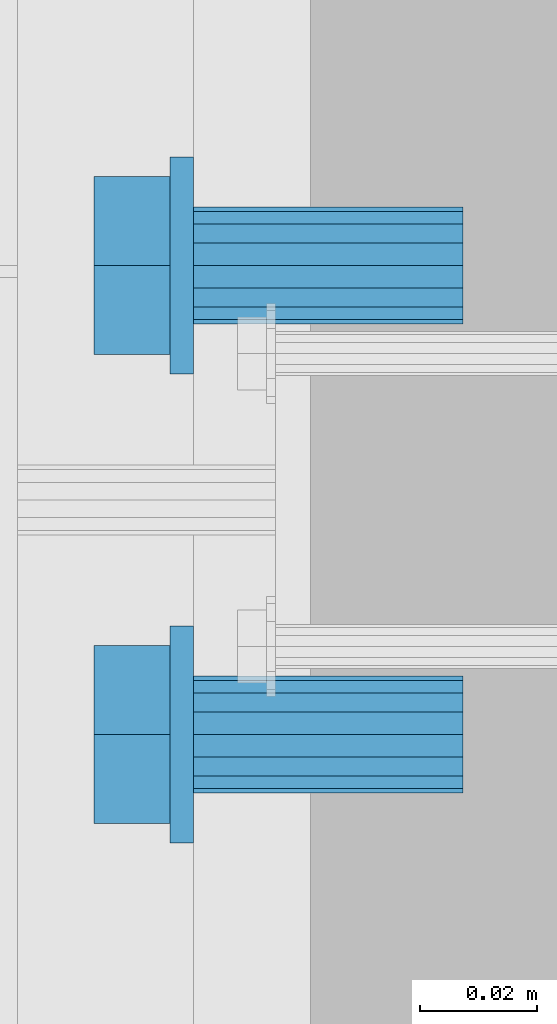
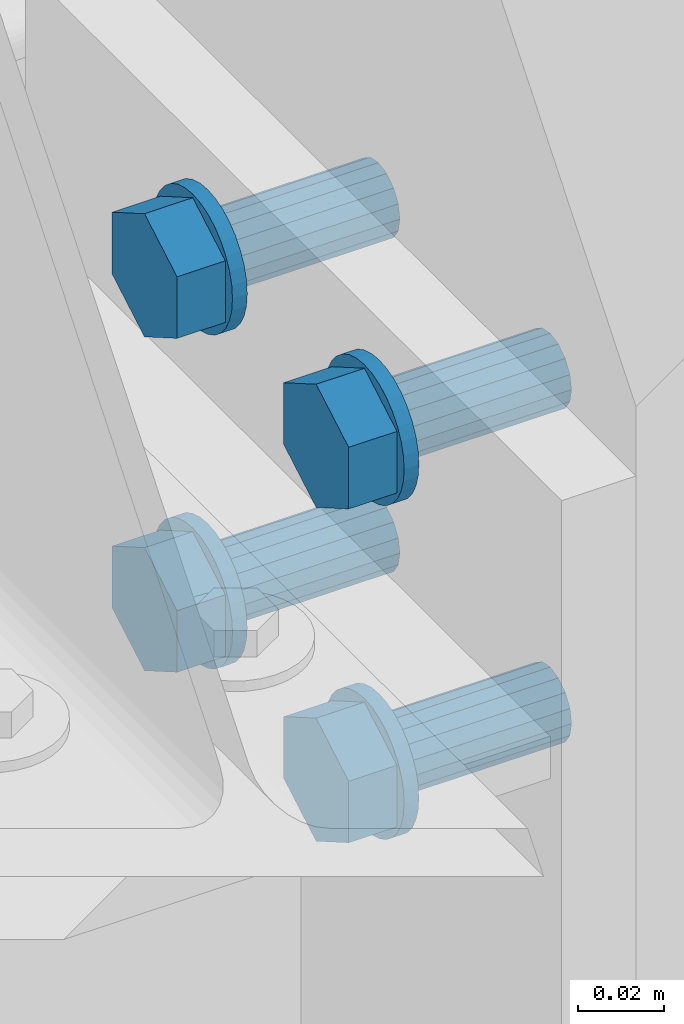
# One storey, part 213 of 410: 4 mechanical fasteners.
"""IFC2X3 building model written with IfcOpenShell, lengths in millimetres."""

from ifc_helpers import new_model, entity, si_unit, converted_unit, origin_with_axes, place, context, project, spatial, faceted_brep, element, save


model = new_model("IFC2X3")

# Units and contexts
model_context = context("Model", 3, precision=1e-09, world=origin_with_axes())
ifc_project = project(units=[si_unit("LENGTHUNIT", "METRE", prefix="MILLI"), si_unit("AREAUNIT", "SQUARE_METRE"), si_unit("VOLUMEUNIT", "CUBIC_METRE"), converted_unit("PLANEANGLEUNIT", "DEGREE", entity("IfcPlaneAngleMeasure", 0.01745329), si_unit("PLANEANGLEUNIT", "RADIAN"), dimensions=[0, 0, 0, 0, 0, 0, 0])], contexts=[model_context])

# Site, building, storey
site_placement = place(None, origin_with_axes())
site = spatial("IfcSite", under=ifc_project, at=site_placement, Name="mKR Teilneubau & Sanierung BA1 - Ostfildern", CompositionType="ELEMENT")
building_placement = place(site_placement, origin_with_axes())
building = spatial("IfcBuilding", under=site, at=building_placement, Name="Struktur 1", CompositionType="ELEMENT")
storey_placement = place(building_placement, origin_with_axes())
storey = spatial("IfcBuildingStorey", under=building, at=storey_placement, Name="Default Storey", CompositionType="ELEMENT", Elevation=0.0)

# Mechanical fasteners
mechanical_fastener_1_placement = place(None, origin_with_axes())
element("IfcMechanicalFastener", 1, at=mechanical_fastener_1_placement, inside=storey, ObjectType="-", NominalDiameter=20.0, NominalLength=50.0, context=model_context, shape_type="Brep", body=[
    faceted_brep([(-1729.0, 17038.5, 3760.0), (-1725.0, 17038.5, 3760.0), (-1725.0, 17038.144527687, 3756.390829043), (-1729.0, 17038.144527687, 3756.390829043), (-1725.0, 17037.091771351, 3752.920356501), (-1729.0, 17037.091771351, 3752.920356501), (-1725.0, 17035.382187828, 3749.721950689), (-1729.0, 17035.382187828, 3749.721950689), (-1725.0, 17033.081475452, 3746.918524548), (-1729.0, 17033.081475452, 3746.918524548), (-1725.0, 17030.278049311, 3744.617812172), (-1729.0, 17030.278049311, 3744.617812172), (-1725.0, 17027.079643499, 3742.908228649), (-1729.0, 17027.079643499, 3742.908228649), (-1725.0, 17023.609170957, 3741.855472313), (-1729.0, 17023.609170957, 3741.855472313), (-1725.0, 17020.0, 3741.5), (-1729.0, 17020.0, 3741.5), (-1725.0, 17016.390829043, 3741.855472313), (-1729.0, 17016.390829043, 3741.855472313), (-1725.0, 17012.920356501, 3742.908228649), (-1729.0, 17012.920356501, 3742.908228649), (-1725.0, 17009.721950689, 3744.617812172), (-1729.0, 17009.721950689, 3744.617812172), (-1725.0, 17006.918524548, 3746.918524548), (-1729.0, 17006.918524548, 3746.918524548), (-1725.0, 17004.617812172, 3749.721950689), (-1729.0, 17004.617812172, 3749.721950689), (-1725.0, 17002.908228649, 3752.920356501), (-1729.0, 17002.908228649, 3752.920356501), (-1725.0, 17001.855472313, 3756.390829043), (-1729.0, 17001.855472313, 3756.390829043), (-1725.0, 17001.5, 3760.0), (-1729.0, 17001.5, 3760.0), (-1725.0, 17001.855472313, 3763.609170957), (-1729.0, 17001.855472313, 3763.609170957), (-1725.0, 17002.908228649, 3767.079643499), (-1729.0, 17002.908228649, 3767.079643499), (-1725.0, 17004.617812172, 3770.278049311), (-1729.0, 17004.617812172, 3770.278049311), (-1725.0, 17006.918524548, 3773.081475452), (-1729.0, 17006.918524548, 3773.081475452), (-1725.0, 17009.721950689, 3775.382187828), (-1729.0, 17009.721950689, 3775.382187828), (-1725.0, 17012.920356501, 3777.091771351), (-1729.0, 17012.920356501, 3777.091771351), (-1725.0, 17016.390829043, 3778.144527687), (-1729.0, 17016.390829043, 3778.144527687), (-1725.0, 17020.0, 3778.5), (-1729.0, 17020.0, 3778.5), (-1725.0, 17023.609170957, 3778.144527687), (-1729.0, 17023.609170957, 3778.144527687), (-1725.0, 17027.079643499, 3777.091771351), (-1729.0, 17027.079643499, 3777.091771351), (-1725.0, 17030.278049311, 3775.382187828), (-1729.0, 17030.278049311, 3775.382187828), (-1725.0, 17033.081475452, 3773.081475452), (-1729.0, 17033.081475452, 3773.081475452), (-1725.0, 17035.382187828, 3770.278049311), (-1729.0, 17035.382187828, 3770.278049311), (-1725.0, 17037.091771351, 3767.079643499), (-1729.0, 17037.091771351, 3767.079643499), (-1725.0, 17038.144527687, 3763.609170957), (-1729.0, 17038.144527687, 3763.609170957)], [[[0, 1, 2, 3]], [[3, 2, 4, 5]], [[5, 4, 6, 7]], [[7, 6, 8, 9]], [[9, 8, 10, 11]], [[11, 10, 12, 13]], [[13, 12, 14, 15]], [[15, 14, 16, 17]], [[17, 16, 18, 19]], [[19, 18, 20, 21]], [[21, 20, 22, 23]], [[23, 22, 24, 25]], [[25, 24, 26, 27]], [[27, 26, 28, 29]], [[29, 28, 30, 31]], [[31, 30, 32, 33]], [[33, 32, 34, 35]], [[35, 34, 36, 37]], [[37, 36, 38, 39]], [[39, 38, 40, 41]], [[41, 40, 42, 43]], [[43, 42, 44, 45]], [[45, 44, 46, 47]], [[47, 46, 48, 49]], [[49, 48, 50, 51]], [[51, 50, 52, 53]], [[53, 52, 54, 55]], [[55, 54, 56, 57]], [[57, 56, 58, 59]], [[59, 58, 60, 61]], [[61, 60, 62, 63]], [[63, 62, 1, 0]], [[0, 3, 5, 7, 9, 11, 13, 15, 17, 19, 21, 23, 25, 27, 29, 31, 33, 35, 37, 39, 41, 43, 45, 47, 49, 51, 53, 55, 57, 59, 61, 63]], [[1, 62, 60, 58, 56, 54, 52, 50, 48, 46, 44, 42, 40, 38, 36, 34, 32, 30, 28, 26, 24, 22, 20, 18, 16, 14, 12, 10, 8, 6, 4, 2]]]),
    faceted_brep([(-1729.0, 17004.831565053, 3751.2425), (-1742.0, 17004.831565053, 3751.2425), (-1742.0, 17020.0, 3742.485), (-1729.0, 17020.0, 3742.485), (-1742.0, 17035.168434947, 3751.2425), (-1729.0, 17035.168434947, 3751.2425), (-1742.0, 17035.168434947, 3768.7575), (-1729.0, 17035.168434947, 3768.7575), (-1742.0, 17020.0, 3777.515), (-1729.0, 17020.0, 3777.515), (-1742.0, 17004.831565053, 3768.7575), (-1729.0, 17004.831565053, 3768.7575)], [[[0, 1, 2, 3]], [[3, 2, 4, 5]], [[5, 4, 6, 7]], [[7, 6, 8, 9]], [[9, 8, 10, 11]], [[11, 10, 1, 0]], [[4, 2, 1, 10, 8, 6]], [[0, 3, 5, 7, 9, 11]]]),
    faceted_brep([(-1725.0, 17030.0, 3760.0), (-1705.0, 17030.0, 3760.0), (-1705.0, 17029.238795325, 3756.173165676), (-1725.0, 17029.238795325, 3756.173165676), (-1705.0, 17027.071067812, 3752.928932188), (-1725.0, 17027.071067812, 3752.928932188), (-1705.0, 17023.826834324, 3750.761204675), (-1725.0, 17023.826834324, 3750.761204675), (-1705.0, 17020.0, 3750.0), (-1725.0, 17020.0, 3750.0), (-1705.0, 17016.173165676, 3750.761204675), (-1725.0, 17016.173165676, 3750.761204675), (-1705.0, 17012.928932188, 3752.928932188), (-1725.0, 17012.928932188, 3752.928932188), (-1705.0, 17010.761204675, 3756.173165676), (-1725.0, 17010.761204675, 3756.173165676), (-1705.0, 17010.0, 3760.0), (-1725.0, 17010.0, 3760.0), (-1705.0, 17010.761204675, 3763.826834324), (-1725.0, 17010.761204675, 3763.826834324), (-1705.0, 17012.928932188, 3767.071067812), (-1725.0, 17012.928932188, 3767.071067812), (-1705.0, 17016.173165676, 3769.238795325), (-1725.0, 17016.173165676, 3769.238795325), (-1705.0, 17020.0, 3770.0), (-1725.0, 17020.0, 3770.0), (-1705.0, 17023.826834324, 3769.238795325), (-1725.0, 17023.826834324, 3769.238795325), (-1705.0, 17027.071067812, 3767.071067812), (-1725.0, 17027.071067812, 3767.071067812), (-1705.0, 17029.238795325, 3763.826834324), (-1725.0, 17029.238795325, 3763.826834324)], [[[0, 1, 2, 3]], [[3, 2, 4, 5]], [[5, 4, 6, 7]], [[7, 6, 8, 9]], [[9, 8, 10, 11]], [[11, 10, 12, 13]], [[13, 12, 14, 15]], [[15, 14, 16, 17]], [[17, 16, 18, 19]], [[19, 18, 20, 21]], [[21, 20, 22, 23]], [[23, 22, 24, 25]], [[25, 24, 26, 27]], [[27, 26, 28, 29]], [[29, 28, 30, 31]], [[31, 30, 1, 0]], [[0, 3, 5, 7, 9, 11, 13, 15, 17, 19, 21, 23, 25, 27, 29, 31]], [[1, 30, 28, 26, 24, 22, 20, 18, 16, 14, 12, 10, 8, 6, 4, 2]]]),
    faceted_brep([(-1705.0, 17030.0, 3760.0), (-1679.0, 17030.0, 3760.0), (-1679.0, 17029.238795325, 3756.173165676), (-1705.0, 17029.238795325, 3756.173165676), (-1679.0, 17027.071067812, 3752.928932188), (-1705.0, 17027.071067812, 3752.928932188), (-1679.0, 17023.826834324, 3750.761204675), (-1705.0, 17023.826834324, 3750.761204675), (-1679.0, 17020.0, 3750.0), (-1705.0, 17020.0, 3750.0), (-1679.0, 17016.173165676, 3750.761204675), (-1705.0, 17016.173165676, 3750.761204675), (-1679.0, 17012.928932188, 3752.928932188), (-1705.0, 17012.928932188, 3752.928932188), (-1679.0, 17010.761204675, 3756.173165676), (-1705.0, 17010.761204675, 3756.173165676), (-1679.0, 17010.0, 3760.0), (-1705.0, 17010.0, 3760.0), (-1679.0, 17010.761204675, 3763.826834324), (-1705.0, 17010.761204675, 3763.826834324), (-1679.0, 17012.928932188, 3767.071067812), (-1705.0, 17012.928932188, 3767.071067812), (-1679.0, 17016.173165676, 3769.238795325), (-1705.0, 17016.173165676, 3769.238795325), (-1679.0, 17020.0, 3770.0), (-1705.0, 17020.0, 3770.0), (-1679.0, 17023.826834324, 3769.238795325), (-1705.0, 17023.826834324, 3769.238795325), (-1679.0, 17027.071067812, 3767.071067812), (-1705.0, 17027.071067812, 3767.071067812), (-1679.0, 17029.238795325, 3763.826834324), (-1705.0, 17029.238795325, 3763.826834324)], [[[0, 1, 2, 3]], [[3, 2, 4, 5]], [[5, 4, 6, 7]], [[7, 6, 8, 9]], [[9, 8, 10, 11]], [[11, 10, 12, 13]], [[13, 12, 14, 15]], [[15, 14, 16, 17]], [[17, 16, 18, 19]], [[19, 18, 20, 21]], [[21, 20, 22, 23]], [[23, 22, 24, 25]], [[25, 24, 26, 27]], [[27, 26, 28, 29]], [[29, 28, 30, 31]], [[31, 30, 1, 0]], [[0, 3, 5, 7, 9, 11, 13, 15, 17, 19, 21, 23, 25, 27, 29, 31]], [[1, 30, 28, 26, 24, 22, 20, 18, 16, 14, 12, 10, 8, 6, 4, 2]]]),
])
mechanical_fastener_2_placement = place(None, origin_with_axes())
element("IfcMechanicalFastener", 2, at=mechanical_fastener_2_placement, inside=storey, ObjectType="-", NominalDiameter=20.0, NominalLength=50.0, context=model_context, shape_type="Brep", body=[
    faceted_brep([(-1729.0, 16958.5, 3760.0), (-1725.0, 16958.5, 3760.0), (-1725.0, 16958.144527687, 3756.390829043), (-1729.0, 16958.144527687, 3756.390829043), (-1725.0, 16957.091771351, 3752.920356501), (-1729.0, 16957.091771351, 3752.920356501), (-1725.0, 16955.382187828, 3749.721950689), (-1729.0, 16955.382187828, 3749.721950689), (-1725.0, 16953.081475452, 3746.918524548), (-1729.0, 16953.081475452, 3746.918524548), (-1725.0, 16950.278049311, 3744.617812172), (-1729.0, 16950.278049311, 3744.617812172), (-1725.0, 16947.079643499, 3742.908228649), (-1729.0, 16947.079643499, 3742.908228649), (-1725.0, 16943.609170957, 3741.855472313), (-1729.0, 16943.609170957, 3741.855472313), (-1725.0, 16940.0, 3741.5), (-1729.0, 16940.0, 3741.5), (-1725.0, 16936.390829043, 3741.855472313), (-1729.0, 16936.390829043, 3741.855472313), (-1725.0, 16932.920356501, 3742.908228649), (-1729.0, 16932.920356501, 3742.908228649), (-1725.0, 16929.721950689, 3744.617812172), (-1729.0, 16929.721950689, 3744.617812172), (-1725.0, 16926.918524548, 3746.918524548), (-1729.0, 16926.918524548, 3746.918524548), (-1725.0, 16924.617812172, 3749.721950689), (-1729.0, 16924.617812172, 3749.721950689), (-1725.0, 16922.908228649, 3752.920356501), (-1729.0, 16922.908228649, 3752.920356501), (-1725.0, 16921.855472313, 3756.390829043), (-1729.0, 16921.855472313, 3756.390829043), (-1725.0, 16921.5, 3760.0), (-1729.0, 16921.5, 3760.0), (-1725.0, 16921.855472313, 3763.609170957), (-1729.0, 16921.855472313, 3763.609170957), (-1725.0, 16922.908228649, 3767.079643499), (-1729.0, 16922.908228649, 3767.079643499), (-1725.0, 16924.617812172, 3770.278049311), (-1729.0, 16924.617812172, 3770.278049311), (-1725.0, 16926.918524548, 3773.081475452), (-1729.0, 16926.918524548, 3773.081475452), (-1725.0, 16929.721950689, 3775.382187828), (-1729.0, 16929.721950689, 3775.382187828), (-1725.0, 16932.920356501, 3777.091771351), (-1729.0, 16932.920356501, 3777.091771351), (-1725.0, 16936.390829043, 3778.144527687), (-1729.0, 16936.390829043, 3778.144527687), (-1725.0, 16940.0, 3778.5), (-1729.0, 16940.0, 3778.5), (-1725.0, 16943.609170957, 3778.144527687), (-1729.0, 16943.609170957, 3778.144527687), (-1725.0, 16947.079643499, 3777.091771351), (-1729.0, 16947.079643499, 3777.091771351), (-1725.0, 16950.278049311, 3775.382187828), (-1729.0, 16950.278049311, 3775.382187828), (-1725.0, 16953.081475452, 3773.081475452), (-1729.0, 16953.081475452, 3773.081475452), (-1725.0, 16955.382187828, 3770.278049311), (-1729.0, 16955.382187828, 3770.278049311), (-1725.0, 16957.091771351, 3767.079643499), (-1729.0, 16957.091771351, 3767.079643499), (-1725.0, 16958.144527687, 3763.609170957), (-1729.0, 16958.144527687, 3763.609170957)], [[[0, 1, 2, 3]], [[3, 2, 4, 5]], [[5, 4, 6, 7]], [[7, 6, 8, 9]], [[9, 8, 10, 11]], [[11, 10, 12, 13]], [[13, 12, 14, 15]], [[15, 14, 16, 17]], [[17, 16, 18, 19]], [[19, 18, 20, 21]], [[21, 20, 22, 23]], [[23, 22, 24, 25]], [[25, 24, 26, 27]], [[27, 26, 28, 29]], [[29, 28, 30, 31]], [[31, 30, 32, 33]], [[33, 32, 34, 35]], [[35, 34, 36, 37]], [[37, 36, 38, 39]], [[39, 38, 40, 41]], [[41, 40, 42, 43]], [[43, 42, 44, 45]], [[45, 44, 46, 47]], [[47, 46, 48, 49]], [[49, 48, 50, 51]], [[51, 50, 52, 53]], [[53, 52, 54, 55]], [[55, 54, 56, 57]], [[57, 56, 58, 59]], [[59, 58, 60, 61]], [[61, 60, 62, 63]], [[63, 62, 1, 0]], [[0, 3, 5, 7, 9, 11, 13, 15, 17, 19, 21, 23, 25, 27, 29, 31, 33, 35, 37, 39, 41, 43, 45, 47, 49, 51, 53, 55, 57, 59, 61, 63]], [[1, 62, 60, 58, 56, 54, 52, 50, 48, 46, 44, 42, 40, 38, 36, 34, 32, 30, 28, 26, 24, 22, 20, 18, 16, 14, 12, 10, 8, 6, 4, 2]]]),
    faceted_brep([(-1729.0, 16924.831565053, 3751.2425), (-1742.0, 16924.831565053, 3751.2425), (-1742.0, 16940.0, 3742.485), (-1729.0, 16940.0, 3742.485), (-1742.0, 16955.168434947, 3751.2425), (-1729.0, 16955.168434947, 3751.2425), (-1742.0, 16955.168434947, 3768.7575), (-1729.0, 16955.168434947, 3768.7575), (-1742.0, 16940.0, 3777.515), (-1729.0, 16940.0, 3777.515), (-1742.0, 16924.831565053, 3768.7575), (-1729.0, 16924.831565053, 3768.7575)], [[[0, 1, 2, 3]], [[3, 2, 4, 5]], [[5, 4, 6, 7]], [[7, 6, 8, 9]], [[9, 8, 10, 11]], [[11, 10, 1, 0]], [[4, 2, 1, 10, 8, 6]], [[0, 3, 5, 7, 9, 11]]]),
    faceted_brep([(-1725.0, 16950.0, 3760.0), (-1705.0, 16950.0, 3760.0), (-1705.0, 16949.238795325, 3756.173165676), (-1725.0, 16949.238795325, 3756.173165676), (-1705.0, 16947.071067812, 3752.928932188), (-1725.0, 16947.071067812, 3752.928932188), (-1705.0, 16943.826834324, 3750.761204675), (-1725.0, 16943.826834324, 3750.761204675), (-1705.0, 16940.0, 3750.0), (-1725.0, 16940.0, 3750.0), (-1705.0, 16936.173165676, 3750.761204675), (-1725.0, 16936.173165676, 3750.761204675), (-1705.0, 16932.928932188, 3752.928932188), (-1725.0, 16932.928932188, 3752.928932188), (-1705.0, 16930.761204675, 3756.173165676), (-1725.0, 16930.761204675, 3756.173165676), (-1705.0, 16930.0, 3760.0), (-1725.0, 16930.0, 3760.0), (-1705.0, 16930.761204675, 3763.826834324), (-1725.0, 16930.761204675, 3763.826834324), (-1705.0, 16932.928932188, 3767.071067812), (-1725.0, 16932.928932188, 3767.071067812), (-1705.0, 16936.173165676, 3769.238795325), (-1725.0, 16936.173165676, 3769.238795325), (-1705.0, 16940.0, 3770.0), (-1725.0, 16940.0, 3770.0), (-1705.0, 16943.826834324, 3769.238795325), (-1725.0, 16943.826834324, 3769.238795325), (-1705.0, 16947.071067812, 3767.071067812), (-1725.0, 16947.071067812, 3767.071067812), (-1705.0, 16949.238795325, 3763.826834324), (-1725.0, 16949.238795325, 3763.826834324)], [[[0, 1, 2, 3]], [[3, 2, 4, 5]], [[5, 4, 6, 7]], [[7, 6, 8, 9]], [[9, 8, 10, 11]], [[11, 10, 12, 13]], [[13, 12, 14, 15]], [[15, 14, 16, 17]], [[17, 16, 18, 19]], [[19, 18, 20, 21]], [[21, 20, 22, 23]], [[23, 22, 24, 25]], [[25, 24, 26, 27]], [[27, 26, 28, 29]], [[29, 28, 30, 31]], [[31, 30, 1, 0]], [[0, 3, 5, 7, 9, 11, 13, 15, 17, 19, 21, 23, 25, 27, 29, 31]], [[1, 30, 28, 26, 24, 22, 20, 18, 16, 14, 12, 10, 8, 6, 4, 2]]]),
    faceted_brep([(-1705.0, 16950.0, 3760.0), (-1679.0, 16950.0, 3760.0), (-1679.0, 16949.238795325, 3756.173165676), (-1705.0, 16949.238795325, 3756.173165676), (-1679.0, 16947.071067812, 3752.928932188), (-1705.0, 16947.071067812, 3752.928932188), (-1679.0, 16943.826834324, 3750.761204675), (-1705.0, 16943.826834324, 3750.761204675), (-1679.0, 16940.0, 3750.0), (-1705.0, 16940.0, 3750.0), (-1679.0, 16936.173165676, 3750.761204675), (-1705.0, 16936.173165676, 3750.761204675), (-1679.0, 16932.928932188, 3752.928932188), (-1705.0, 16932.928932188, 3752.928932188), (-1679.0, 16930.761204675, 3756.173165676), (-1705.0, 16930.761204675, 3756.173165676), (-1679.0, 16930.0, 3760.0), (-1705.0, 16930.0, 3760.0), (-1679.0, 16930.761204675, 3763.826834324), (-1705.0, 16930.761204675, 3763.826834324), (-1679.0, 16932.928932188, 3767.071067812), (-1705.0, 16932.928932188, 3767.071067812), (-1679.0, 16936.173165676, 3769.238795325), (-1705.0, 16936.173165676, 3769.238795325), (-1679.0, 16940.0, 3770.0), (-1705.0, 16940.0, 3770.0), (-1679.0, 16943.826834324, 3769.238795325), (-1705.0, 16943.826834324, 3769.238795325), (-1679.0, 16947.071067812, 3767.071067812), (-1705.0, 16947.071067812, 3767.071067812), (-1679.0, 16949.238795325, 3763.826834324), (-1705.0, 16949.238795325, 3763.826834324)], [[[0, 1, 2, 3]], [[3, 2, 4, 5]], [[5, 4, 6, 7]], [[7, 6, 8, 9]], [[9, 8, 10, 11]], [[11, 10, 12, 13]], [[13, 12, 14, 15]], [[15, 14, 16, 17]], [[17, 16, 18, 19]], [[19, 18, 20, 21]], [[21, 20, 22, 23]], [[23, 22, 24, 25]], [[25, 24, 26, 27]], [[27, 26, 28, 29]], [[29, 28, 30, 31]], [[31, 30, 1, 0]], [[0, 3, 5, 7, 9, 11, 13, 15, 17, 19, 21, 23, 25, 27, 29, 31]], [[1, 30, 28, 26, 24, 22, 20, 18, 16, 14, 12, 10, 8, 6, 4, 2]]]),
])
mechanical_fastener_3_placement = place(None, origin_with_axes())
element("IfcMechanicalFastener", 3, at=mechanical_fastener_3_placement, inside=storey, ObjectType="-", NominalDiameter=20.0, NominalLength=50.0, context=model_context, shape_type="Brep", body=[
    faceted_brep([(-1729.0, 16958.5, 3665.0), (-1725.0, 16958.5, 3665.0), (-1725.0, 16958.144527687, 3661.390829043), (-1729.0, 16958.144527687, 3661.390829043), (-1725.0, 16957.091771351, 3657.920356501), (-1729.0, 16957.091771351, 3657.920356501), (-1725.0, 16955.382187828, 3654.721950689), (-1729.0, 16955.382187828, 3654.721950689), (-1725.0, 16953.081475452, 3651.918524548), (-1729.0, 16953.081475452, 3651.918524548), (-1725.0, 16950.278049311, 3649.617812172), (-1729.0, 16950.278049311, 3649.617812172), (-1725.0, 16947.079643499, 3647.908228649), (-1729.0, 16947.079643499, 3647.908228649), (-1725.0, 16943.609170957, 3646.855472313), (-1729.0, 16943.609170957, 3646.855472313), (-1725.0, 16940.0, 3646.5), (-1729.0, 16940.0, 3646.5), (-1725.0, 16936.390829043, 3646.855472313), (-1729.0, 16936.390829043, 3646.855472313), (-1725.0, 16932.920356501, 3647.908228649), (-1729.0, 16932.920356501, 3647.908228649), (-1725.0, 16929.721950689, 3649.617812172), (-1729.0, 16929.721950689, 3649.617812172), (-1725.0, 16926.918524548, 3651.918524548), (-1729.0, 16926.918524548, 3651.918524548), (-1725.0, 16924.617812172, 3654.721950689), (-1729.0, 16924.617812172, 3654.721950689), (-1725.0, 16922.908228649, 3657.920356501), (-1729.0, 16922.908228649, 3657.920356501), (-1725.0, 16921.855472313, 3661.390829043), (-1729.0, 16921.855472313, 3661.390829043), (-1725.0, 16921.5, 3665.0), (-1729.0, 16921.5, 3665.0), (-1725.0, 16921.855472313, 3668.609170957), (-1729.0, 16921.855472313, 3668.609170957), (-1725.0, 16922.908228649, 3672.079643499), (-1729.0, 16922.908228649, 3672.079643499), (-1725.0, 16924.617812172, 3675.278049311), (-1729.0, 16924.617812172, 3675.278049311), (-1725.0, 16926.918524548, 3678.081475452), (-1729.0, 16926.918524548, 3678.081475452), (-1725.0, 16929.721950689, 3680.382187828), (-1729.0, 16929.721950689, 3680.382187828), (-1725.0, 16932.920356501, 3682.091771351), (-1729.0, 16932.920356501, 3682.091771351), (-1725.0, 16936.390829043, 3683.144527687), (-1729.0, 16936.390829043, 3683.144527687), (-1725.0, 16940.0, 3683.5), (-1729.0, 16940.0, 3683.5), (-1725.0, 16943.609170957, 3683.144527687), (-1729.0, 16943.609170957, 3683.144527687), (-1725.0, 16947.079643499, 3682.091771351), (-1729.0, 16947.079643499, 3682.091771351), (-1725.0, 16950.278049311, 3680.382187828), (-1729.0, 16950.278049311, 3680.382187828), (-1725.0, 16953.081475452, 3678.081475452), (-1729.0, 16953.081475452, 3678.081475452), (-1725.0, 16955.382187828, 3675.278049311), (-1729.0, 16955.382187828, 3675.278049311), (-1725.0, 16957.091771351, 3672.079643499), (-1729.0, 16957.091771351, 3672.079643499), (-1725.0, 16958.144527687, 3668.609170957), (-1729.0, 16958.144527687, 3668.609170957)], [[[0, 1, 2, 3]], [[3, 2, 4, 5]], [[5, 4, 6, 7]], [[7, 6, 8, 9]], [[9, 8, 10, 11]], [[11, 10, 12, 13]], [[13, 12, 14, 15]], [[15, 14, 16, 17]], [[17, 16, 18, 19]], [[19, 18, 20, 21]], [[21, 20, 22, 23]], [[23, 22, 24, 25]], [[25, 24, 26, 27]], [[27, 26, 28, 29]], [[29, 28, 30, 31]], [[31, 30, 32, 33]], [[33, 32, 34, 35]], [[35, 34, 36, 37]], [[37, 36, 38, 39]], [[39, 38, 40, 41]], [[41, 40, 42, 43]], [[43, 42, 44, 45]], [[45, 44, 46, 47]], [[47, 46, 48, 49]], [[49, 48, 50, 51]], [[51, 50, 52, 53]], [[53, 52, 54, 55]], [[55, 54, 56, 57]], [[57, 56, 58, 59]], [[59, 58, 60, 61]], [[61, 60, 62, 63]], [[63, 62, 1, 0]], [[0, 3, 5, 7, 9, 11, 13, 15, 17, 19, 21, 23, 25, 27, 29, 31, 33, 35, 37, 39, 41, 43, 45, 47, 49, 51, 53, 55, 57, 59, 61, 63]], [[1, 62, 60, 58, 56, 54, 52, 50, 48, 46, 44, 42, 40, 38, 36, 34, 32, 30, 28, 26, 24, 22, 20, 18, 16, 14, 12, 10, 8, 6, 4, 2]]]),
    faceted_brep([(-1729.0, 16924.831565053, 3656.2425), (-1742.0, 16924.831565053, 3656.2425), (-1742.0, 16940.0, 3647.485), (-1729.0, 16940.0, 3647.485), (-1742.0, 16955.168434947, 3656.2425), (-1729.0, 16955.168434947, 3656.2425), (-1742.0, 16955.168434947, 3673.7575), (-1729.0, 16955.168434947, 3673.7575), (-1742.0, 16940.0, 3682.515), (-1729.0, 16940.0, 3682.515), (-1742.0, 16924.831565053, 3673.7575), (-1729.0, 16924.831565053, 3673.7575)], [[[0, 1, 2, 3]], [[3, 2, 4, 5]], [[5, 4, 6, 7]], [[7, 6, 8, 9]], [[9, 8, 10, 11]], [[11, 10, 1, 0]], [[4, 2, 1, 10, 8, 6]], [[0, 3, 5, 7, 9, 11]]]),
    faceted_brep([(-1725.0, 16950.0, 3665.0), (-1705.0, 16950.0, 3665.0), (-1705.0, 16949.238795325, 3661.173165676), (-1725.0, 16949.238795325, 3661.173165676), (-1705.0, 16947.071067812, 3657.928932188), (-1725.0, 16947.071067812, 3657.928932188), (-1705.0, 16943.826834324, 3655.761204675), (-1725.0, 16943.826834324, 3655.761204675), (-1705.0, 16940.0, 3655.0), (-1725.0, 16940.0, 3655.0), (-1705.0, 16936.173165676, 3655.761204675), (-1725.0, 16936.173165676, 3655.761204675), (-1705.0, 16932.928932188, 3657.928932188), (-1725.0, 16932.928932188, 3657.928932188), (-1705.0, 16930.761204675, 3661.173165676), (-1725.0, 16930.761204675, 3661.173165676), (-1705.0, 16930.0, 3665.0), (-1725.0, 16930.0, 3665.0), (-1705.0, 16930.761204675, 3668.826834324), (-1725.0, 16930.761204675, 3668.826834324), (-1705.0, 16932.928932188, 3672.071067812), (-1725.0, 16932.928932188, 3672.071067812), (-1705.0, 16936.173165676, 3674.238795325), (-1725.0, 16936.173165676, 3674.238795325), (-1705.0, 16940.0, 3675.0), (-1725.0, 16940.0, 3675.0), (-1705.0, 16943.826834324, 3674.238795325), (-1725.0, 16943.826834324, 3674.238795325), (-1705.0, 16947.071067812, 3672.071067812), (-1725.0, 16947.071067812, 3672.071067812), (-1705.0, 16949.238795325, 3668.826834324), (-1725.0, 16949.238795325, 3668.826834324)], [[[0, 1, 2, 3]], [[3, 2, 4, 5]], [[5, 4, 6, 7]], [[7, 6, 8, 9]], [[9, 8, 10, 11]], [[11, 10, 12, 13]], [[13, 12, 14, 15]], [[15, 14, 16, 17]], [[17, 16, 18, 19]], [[19, 18, 20, 21]], [[21, 20, 22, 23]], [[23, 22, 24, 25]], [[25, 24, 26, 27]], [[27, 26, 28, 29]], [[29, 28, 30, 31]], [[31, 30, 1, 0]], [[0, 3, 5, 7, 9, 11, 13, 15, 17, 19, 21, 23, 25, 27, 29, 31]], [[1, 30, 28, 26, 24, 22, 20, 18, 16, 14, 12, 10, 8, 6, 4, 2]]]),
    faceted_brep([(-1705.0, 16950.0, 3665.0), (-1679.0, 16950.0, 3665.0), (-1679.0, 16949.238795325, 3661.173165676), (-1705.0, 16949.238795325, 3661.173165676), (-1679.0, 16947.071067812, 3657.928932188), (-1705.0, 16947.071067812, 3657.928932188), (-1679.0, 16943.826834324, 3655.761204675), (-1705.0, 16943.826834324, 3655.761204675), (-1679.0, 16940.0, 3655.0), (-1705.0, 16940.0, 3655.0), (-1679.0, 16936.173165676, 3655.761204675), (-1705.0, 16936.173165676, 3655.761204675), (-1679.0, 16932.928932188, 3657.928932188), (-1705.0, 16932.928932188, 3657.928932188), (-1679.0, 16930.761204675, 3661.173165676), (-1705.0, 16930.761204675, 3661.173165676), (-1679.0, 16930.0, 3665.0), (-1705.0, 16930.0, 3665.0), (-1679.0, 16930.761204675, 3668.826834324), (-1705.0, 16930.761204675, 3668.826834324), (-1679.0, 16932.928932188, 3672.071067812), (-1705.0, 16932.928932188, 3672.071067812), (-1679.0, 16936.173165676, 3674.238795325), (-1705.0, 16936.173165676, 3674.238795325), (-1679.0, 16940.0, 3675.0), (-1705.0, 16940.0, 3675.0), (-1679.0, 16943.826834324, 3674.238795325), (-1705.0, 16943.826834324, 3674.238795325), (-1679.0, 16947.071067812, 3672.071067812), (-1705.0, 16947.071067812, 3672.071067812), (-1679.0, 16949.238795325, 3668.826834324), (-1705.0, 16949.238795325, 3668.826834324)], [[[0, 1, 2, 3]], [[3, 2, 4, 5]], [[5, 4, 6, 7]], [[7, 6, 8, 9]], [[9, 8, 10, 11]], [[11, 10, 12, 13]], [[13, 12, 14, 15]], [[15, 14, 16, 17]], [[17, 16, 18, 19]], [[19, 18, 20, 21]], [[21, 20, 22, 23]], [[23, 22, 24, 25]], [[25, 24, 26, 27]], [[27, 26, 28, 29]], [[29, 28, 30, 31]], [[31, 30, 1, 0]], [[0, 3, 5, 7, 9, 11, 13, 15, 17, 19, 21, 23, 25, 27, 29, 31]], [[1, 30, 28, 26, 24, 22, 20, 18, 16, 14, 12, 10, 8, 6, 4, 2]]]),
])
mechanical_fastener_4_placement = place(None, origin_with_axes())
element("IfcMechanicalFastener", 4, at=mechanical_fastener_4_placement, inside=storey, ObjectType="-", NominalDiameter=20.0, NominalLength=50.0, context=model_context, shape_type="Brep", body=[
    faceted_brep([(-1729.0, 17038.5, 3665.0), (-1725.0, 17038.5, 3665.0), (-1725.0, 17038.144527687, 3661.390829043), (-1729.0, 17038.144527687, 3661.390829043), (-1725.0, 17037.091771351, 3657.920356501), (-1729.0, 17037.091771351, 3657.920356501), (-1725.0, 17035.382187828, 3654.721950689), (-1729.0, 17035.382187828, 3654.721950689), (-1725.0, 17033.081475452, 3651.918524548), (-1729.0, 17033.081475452, 3651.918524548), (-1725.0, 17030.278049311, 3649.617812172), (-1729.0, 17030.278049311, 3649.617812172), (-1725.0, 17027.079643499, 3647.908228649), (-1729.0, 17027.079643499, 3647.908228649), (-1725.0, 17023.609170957, 3646.855472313), (-1729.0, 17023.609170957, 3646.855472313), (-1725.0, 17020.0, 3646.5), (-1729.0, 17020.0, 3646.5), (-1725.0, 17016.390829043, 3646.855472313), (-1729.0, 17016.390829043, 3646.855472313), (-1725.0, 17012.920356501, 3647.908228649), (-1729.0, 17012.920356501, 3647.908228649), (-1725.0, 17009.721950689, 3649.617812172), (-1729.0, 17009.721950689, 3649.617812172), (-1725.0, 17006.918524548, 3651.918524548), (-1729.0, 17006.918524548, 3651.918524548), (-1725.0, 17004.617812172, 3654.721950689), (-1729.0, 17004.617812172, 3654.721950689), (-1725.0, 17002.908228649, 3657.920356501), (-1729.0, 17002.908228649, 3657.920356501), (-1725.0, 17001.855472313, 3661.390829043), (-1729.0, 17001.855472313, 3661.390829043), (-1725.0, 17001.5, 3665.0), (-1729.0, 17001.5, 3665.0), (-1725.0, 17001.855472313, 3668.609170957), (-1729.0, 17001.855472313, 3668.609170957), (-1725.0, 17002.908228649, 3672.079643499), (-1729.0, 17002.908228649, 3672.079643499), (-1725.0, 17004.617812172, 3675.278049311), (-1729.0, 17004.617812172, 3675.278049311), (-1725.0, 17006.918524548, 3678.081475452), (-1729.0, 17006.918524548, 3678.081475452), (-1725.0, 17009.721950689, 3680.382187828), (-1729.0, 17009.721950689, 3680.382187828), (-1725.0, 17012.920356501, 3682.091771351), (-1729.0, 17012.920356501, 3682.091771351), (-1725.0, 17016.390829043, 3683.144527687), (-1729.0, 17016.390829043, 3683.144527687), (-1725.0, 17020.0, 3683.5), (-1729.0, 17020.0, 3683.5), (-1725.0, 17023.609170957, 3683.144527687), (-1729.0, 17023.609170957, 3683.144527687), (-1725.0, 17027.079643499, 3682.091771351), (-1729.0, 17027.079643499, 3682.091771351), (-1725.0, 17030.278049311, 3680.382187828), (-1729.0, 17030.278049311, 3680.382187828), (-1725.0, 17033.081475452, 3678.081475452), (-1729.0, 17033.081475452, 3678.081475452), (-1725.0, 17035.382187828, 3675.278049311), (-1729.0, 17035.382187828, 3675.278049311), (-1725.0, 17037.091771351, 3672.079643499), (-1729.0, 17037.091771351, 3672.079643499), (-1725.0, 17038.144527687, 3668.609170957), (-1729.0, 17038.144527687, 3668.609170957)], [[[0, 1, 2, 3]], [[3, 2, 4, 5]], [[5, 4, 6, 7]], [[7, 6, 8, 9]], [[9, 8, 10, 11]], [[11, 10, 12, 13]], [[13, 12, 14, 15]], [[15, 14, 16, 17]], [[17, 16, 18, 19]], [[19, 18, 20, 21]], [[21, 20, 22, 23]], [[23, 22, 24, 25]], [[25, 24, 26, 27]], [[27, 26, 28, 29]], [[29, 28, 30, 31]], [[31, 30, 32, 33]], [[33, 32, 34, 35]], [[35, 34, 36, 37]], [[37, 36, 38, 39]], [[39, 38, 40, 41]], [[41, 40, 42, 43]], [[43, 42, 44, 45]], [[45, 44, 46, 47]], [[47, 46, 48, 49]], [[49, 48, 50, 51]], [[51, 50, 52, 53]], [[53, 52, 54, 55]], [[55, 54, 56, 57]], [[57, 56, 58, 59]], [[59, 58, 60, 61]], [[61, 60, 62, 63]], [[63, 62, 1, 0]], [[0, 3, 5, 7, 9, 11, 13, 15, 17, 19, 21, 23, 25, 27, 29, 31, 33, 35, 37, 39, 41, 43, 45, 47, 49, 51, 53, 55, 57, 59, 61, 63]], [[1, 62, 60, 58, 56, 54, 52, 50, 48, 46, 44, 42, 40, 38, 36, 34, 32, 30, 28, 26, 24, 22, 20, 18, 16, 14, 12, 10, 8, 6, 4, 2]]]),
    faceted_brep([(-1729.0, 17004.831565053, 3656.2425), (-1742.0, 17004.831565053, 3656.2425), (-1742.0, 17020.0, 3647.485), (-1729.0, 17020.0, 3647.485), (-1742.0, 17035.168434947, 3656.2425), (-1729.0, 17035.168434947, 3656.2425), (-1742.0, 17035.168434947, 3673.7575), (-1729.0, 17035.168434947, 3673.7575), (-1742.0, 17020.0, 3682.515), (-1729.0, 17020.0, 3682.515), (-1742.0, 17004.831565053, 3673.7575), (-1729.0, 17004.831565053, 3673.7575)], [[[0, 1, 2, 3]], [[3, 2, 4, 5]], [[5, 4, 6, 7]], [[7, 6, 8, 9]], [[9, 8, 10, 11]], [[11, 10, 1, 0]], [[4, 2, 1, 10, 8, 6]], [[0, 3, 5, 7, 9, 11]]]),
    faceted_brep([(-1725.0, 17030.0, 3665.0), (-1705.0, 17030.0, 3665.0), (-1705.0, 17029.238795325, 3661.173165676), (-1725.0, 17029.238795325, 3661.173165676), (-1705.0, 17027.071067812, 3657.928932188), (-1725.0, 17027.071067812, 3657.928932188), (-1705.0, 17023.826834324, 3655.761204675), (-1725.0, 17023.826834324, 3655.761204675), (-1705.0, 17020.0, 3655.0), (-1725.0, 17020.0, 3655.0), (-1705.0, 17016.173165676, 3655.761204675), (-1725.0, 17016.173165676, 3655.761204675), (-1705.0, 17012.928932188, 3657.928932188), (-1725.0, 17012.928932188, 3657.928932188), (-1705.0, 17010.761204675, 3661.173165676), (-1725.0, 17010.761204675, 3661.173165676), (-1705.0, 17010.0, 3665.0), (-1725.0, 17010.0, 3665.0), (-1705.0, 17010.761204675, 3668.826834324), (-1725.0, 17010.761204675, 3668.826834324), (-1705.0, 17012.928932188, 3672.071067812), (-1725.0, 17012.928932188, 3672.071067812), (-1705.0, 17016.173165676, 3674.238795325), (-1725.0, 17016.173165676, 3674.238795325), (-1705.0, 17020.0, 3675.0), (-1725.0, 17020.0, 3675.0), (-1705.0, 17023.826834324, 3674.238795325), (-1725.0, 17023.826834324, 3674.238795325), (-1705.0, 17027.071067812, 3672.071067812), (-1725.0, 17027.071067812, 3672.071067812), (-1705.0, 17029.238795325, 3668.826834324), (-1725.0, 17029.238795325, 3668.826834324)], [[[0, 1, 2, 3]], [[3, 2, 4, 5]], [[5, 4, 6, 7]], [[7, 6, 8, 9]], [[9, 8, 10, 11]], [[11, 10, 12, 13]], [[13, 12, 14, 15]], [[15, 14, 16, 17]], [[17, 16, 18, 19]], [[19, 18, 20, 21]], [[21, 20, 22, 23]], [[23, 22, 24, 25]], [[25, 24, 26, 27]], [[27, 26, 28, 29]], [[29, 28, 30, 31]], [[31, 30, 1, 0]], [[0, 3, 5, 7, 9, 11, 13, 15, 17, 19, 21, 23, 25, 27, 29, 31]], [[1, 30, 28, 26, 24, 22, 20, 18, 16, 14, 12, 10, 8, 6, 4, 2]]]),
    faceted_brep([(-1705.0, 17030.0, 3665.0), (-1679.0, 17030.0, 3665.0), (-1679.0, 17029.238795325, 3661.173165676), (-1705.0, 17029.238795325, 3661.173165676), (-1679.0, 17027.071067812, 3657.928932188), (-1705.0, 17027.071067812, 3657.928932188), (-1679.0, 17023.826834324, 3655.761204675), (-1705.0, 17023.826834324, 3655.761204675), (-1679.0, 17020.0, 3655.0), (-1705.0, 17020.0, 3655.0), (-1679.0, 17016.173165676, 3655.761204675), (-1705.0, 17016.173165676, 3655.761204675), (-1679.0, 17012.928932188, 3657.928932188), (-1705.0, 17012.928932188, 3657.928932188), (-1679.0, 17010.761204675, 3661.173165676), (-1705.0, 17010.761204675, 3661.173165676), (-1679.0, 17010.0, 3665.0), (-1705.0, 17010.0, 3665.0), (-1679.0, 17010.761204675, 3668.826834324), (-1705.0, 17010.761204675, 3668.826834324), (-1679.0, 17012.928932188, 3672.071067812), (-1705.0, 17012.928932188, 3672.071067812), (-1679.0, 17016.173165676, 3674.238795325), (-1705.0, 17016.173165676, 3674.238795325), (-1679.0, 17020.0, 3675.0), (-1705.0, 17020.0, 3675.0), (-1679.0, 17023.826834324, 3674.238795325), (-1705.0, 17023.826834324, 3674.238795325), (-1679.0, 17027.071067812, 3672.071067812), (-1705.0, 17027.071067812, 3672.071067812), (-1679.0, 17029.238795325, 3668.826834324), (-1705.0, 17029.238795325, 3668.826834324)], [[[0, 1, 2, 3]], [[3, 2, 4, 5]], [[5, 4, 6, 7]], [[7, 6, 8, 9]], [[9, 8, 10, 11]], [[11, 10, 12, 13]], [[13, 12, 14, 15]], [[15, 14, 16, 17]], [[17, 16, 18, 19]], [[19, 18, 20, 21]], [[21, 20, 22, 23]], [[23, 22, 24, 25]], [[25, 24, 26, 27]], [[27, 26, 28, 29]], [[29, 28, 30, 31]], [[31, 30, 1, 0]], [[0, 3, 5, 7, 9, 11, 13, 15, 17, 19, 21, 23, 25, 27, 29, 31]], [[1, 30, 28, 26, 24, 22, 20, 18, 16, 14, 12, 10, 8, 6, 4, 2]]]),
])

save(model, "model.ifc")
